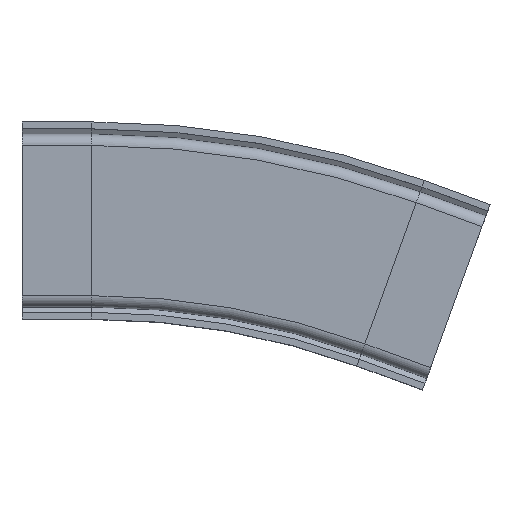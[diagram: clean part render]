
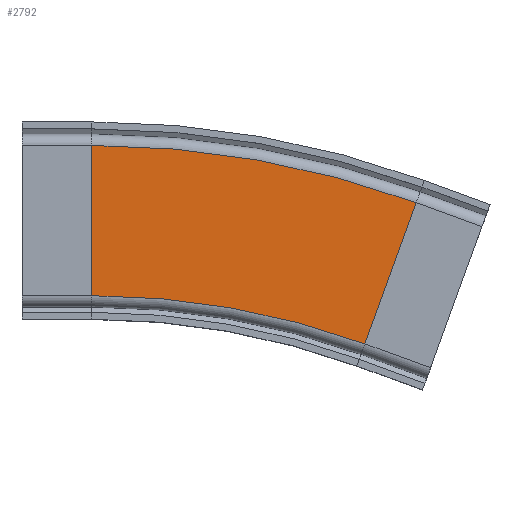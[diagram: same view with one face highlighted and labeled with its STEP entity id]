
A CAD part, top view. The second image highlights one B-rep face of the part: STEP entity #2792.
In plain terms, the highlighted planar face has unit normal (0, 0, 1).
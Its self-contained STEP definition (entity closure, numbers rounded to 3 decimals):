
#13 = CARTESIAN_POINT ( 'NONE',  ( 196.303, -70.56, 42.5 ) ) ;
#66 = CARTESIAN_POINT ( 'NONE',  ( 40., -500., 42.5 ) ) ;
#253 = DIRECTION ( 'NONE',  ( 0., 0., -1. ) ) ;
#397 = VERTEX_POINT ( 'NONE', #1528 ) ;
#504 = DIRECTION ( 'NONE',  ( 1., 0., 0. ) ) ;
#755 = DIRECTION ( 'NONE',  ( 0.342, 0.94, 0. ) ) ;
#819 = CIRCLE ( 'NONE', #1776, 543. ) ;
#1222 = LINE ( 'NONE', #2288, #3210 ) ;
#1338 = ORIENTED_EDGE ( 'NONE', *, *, #5592, .F. ) ;
#1395 = DIRECTION ( 'NONE',  ( 1., 0., 0. ) ) ;
#1455 = VECTOR ( 'NONE', #755, 1000. ) ;
#1479 = ORIENTED_EDGE ( 'NONE', *, *, #5356, .T. ) ;
#1528 = CARTESIAN_POINT ( 'NONE',  ( 225.717, 10.253, 42.5 ) ) ;
#1662 = VERTEX_POINT ( 'NONE', #13 ) ;
#1776 = AXIS2_PLACEMENT_3D ( 'NONE', #66, #3127, #504 ) ;
#1975 = EDGE_LOOP ( 'NONE', ( #2920, #1338, #1479, #4940 ) ) ;
#2288 = CARTESIAN_POINT ( 'NONE',  ( 40., 0., 42.5 ) ) ;
#2500 = CARTESIAN_POINT ( 'NONE',  ( 196.303, -70.56, 42.5 ) ) ;
#2693 = EDGE_CURVE ( 'NONE', #5659, #5213, #1222, .T. ) ;
#2792 = ADVANCED_FACE ( 'NONE', ( #3612 ), #2892, .F. ) ;
#2876 = CARTESIAN_POINT ( 'NONE',  ( 196.303, -70.56, 42.5 ) ) ;
#2892 = PLANE ( 'NONE',  #3854 ) ;
#2920 = ORIENTED_EDGE ( 'NONE', *, *, #2693, .T. ) ;
#3127 = DIRECTION ( 'NONE',  ( 0., 0., 1. ) ) ;
#3152 = DIRECTION ( 'NONE',  ( 0., 0., 1. ) ) ;
#3210 = VECTOR ( 'NONE', #3248, 1000. ) ;
#3248 = DIRECTION ( 'NONE',  ( 0., -1., 0. ) ) ;
#3612 = FACE_OUTER_BOUND ( 'NONE', #1975, .T. ) ;
#3717 = CARTESIAN_POINT ( 'NONE',  ( 40., -43., 42.5 ) ) ;
#3775 = LINE ( 'NONE', #2500, #1455 ) ;
#3854 = AXIS2_PLACEMENT_3D ( 'NONE', #2876, #253, #5445 ) ;
#4413 = CARTESIAN_POINT ( 'NONE',  ( 40., -500., 42.5 ) ) ;
#4840 = CARTESIAN_POINT ( 'NONE',  ( 40., 43., 42.5 ) ) ;
#4909 = AXIS2_PLACEMENT_3D ( 'NONE', #4413, #3152, #1395 ) ;
#4940 = ORIENTED_EDGE ( 'NONE', *, *, #5574, .T. ) ;
#5213 = VERTEX_POINT ( 'NONE', #3717 ) ;
#5339 = CIRCLE ( 'NONE', #4909, 457. ) ;
#5356 = EDGE_CURVE ( 'NONE', #1662, #397, #3775, .T. ) ;
#5445 = DIRECTION ( 'NONE',  ( -1., 0., 0. ) ) ;
#5574 = EDGE_CURVE ( 'NONE', #397, #5659, #819, .T. ) ;
#5592 = EDGE_CURVE ( 'NONE', #1662, #5213, #5339, .T. ) ;
#5659 = VERTEX_POINT ( 'NONE', #4840 ) ;
